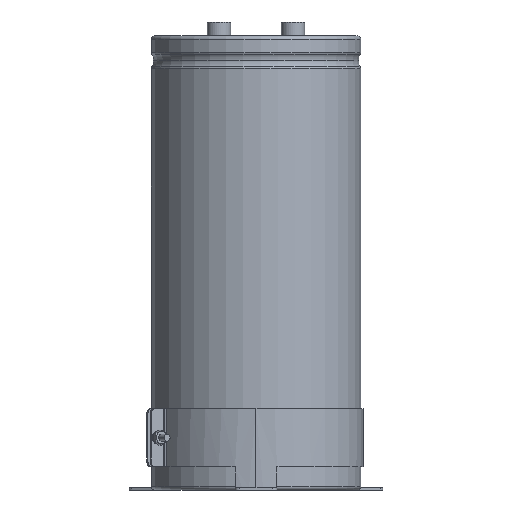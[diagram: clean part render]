
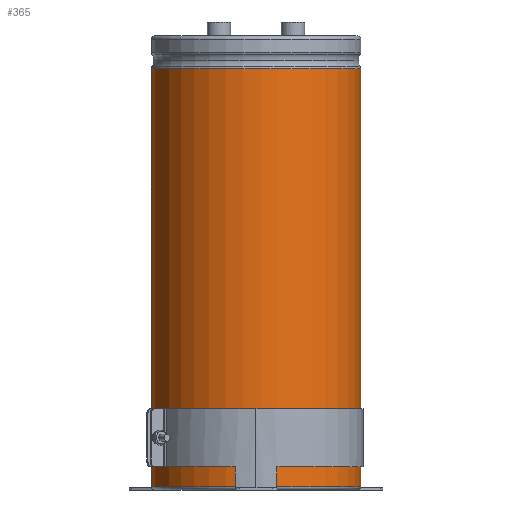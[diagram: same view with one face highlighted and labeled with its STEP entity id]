
A CAD part, left-side view. The second image highlights one B-rep face of the part: STEP entity #365.
In plain terms, the highlighted cylindrical face has radius 45 mm (diameter 90 mm), a partial arc.
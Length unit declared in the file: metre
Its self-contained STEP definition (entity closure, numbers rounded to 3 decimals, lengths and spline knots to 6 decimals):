
#365=ADVANCED_FACE('0:237',(#597),#598,.T.);
#597=FACE_OUTER_BOUND('',#1082,.T.);
#598=CYLINDRICAL_SURFACE('',#1083,0.045);
#1082=EDGE_LOOP('',(#2038,#2039,#2040,#2041));
#1083=AXIS2_PLACEMENT_3D('',#2042,#2043,#2044);
#2038=ORIENTED_EDGE('',*,*,#2995,.T.);
#2039=ORIENTED_EDGE('',*,*,#3004,.T.);
#2040=ORIENTED_EDGE('',*,*,#3006,.T.);
#2041=ORIENTED_EDGE('',*,*,#3007,.F.);
#2042=CARTESIAN_POINT('',(0.0,0.0,0.0));
#2043=DIRECTION('',(-0.0,0.0,1.0));
#2044=DIRECTION('',(0.0,1.0,0.0));
#2995=EDGE_CURVE('',#5626,#5634,#5635,.T.);
#3004=EDGE_CURVE('0:309',#5634,#5645,#5647,.T.);
#3006=EDGE_CURVE('0:312',#5645,#5649,#5650,.T.);
#3007=EDGE_CURVE('0:315',#5626,#5649,#5651,.T.);
#5626=VERTEX_POINT('',#6662);
#5634=VERTEX_POINT('',#6670);
#5635=LINE('',#6671,#6672);
#5645=VERTEX_POINT('',#6683);
#5647=CIRCLE('',#6685,0.045);
#5649=VERTEX_POINT('',#6687);
#5650=LINE('',#6688,#6689);
#5651=CIRCLE('',#6690,0.045);
#6662=CARTESIAN_POINT('',(0.,-0.045,0.0015));
#6670=CARTESIAN_POINT('',(0.,-0.045,0.1809));
#6671=CARTESIAN_POINT('',(0.,-0.045,0.0912));
#6672=VECTOR('',#8209,1.0);
#6683=CARTESIAN_POINT('',(-0.004,0.044822,0.1809));
#6685=AXIS2_PLACEMENT_3D('',#8226,#8227,#8228);
#6687=CARTESIAN_POINT('',(-0.004,0.044822,0.0015));
#6688=CARTESIAN_POINT('',(-0.004,0.044822,0.1809));
#6689=VECTOR('',#8229,0.001);
#6690=AXIS2_PLACEMENT_3D('',#8230,#8231,#8232);
#8209=DIRECTION('',(0.0,0.0,1.0));
#8226=CARTESIAN_POINT('',(0.0,0.0,0.1809));
#8227=DIRECTION('',(0.0,0.0,-1.0));
#8228=DIRECTION('',(0.0,1.0,0.0));
#8229=DIRECTION('',(0.0,0.0,-1.0));
#8230=CARTESIAN_POINT('',(0.0,0.0,0.0015));
#8231=DIRECTION('',(0.0,0.0,-1.0));
#8232=DIRECTION('',(0.0,1.0,0.0));
